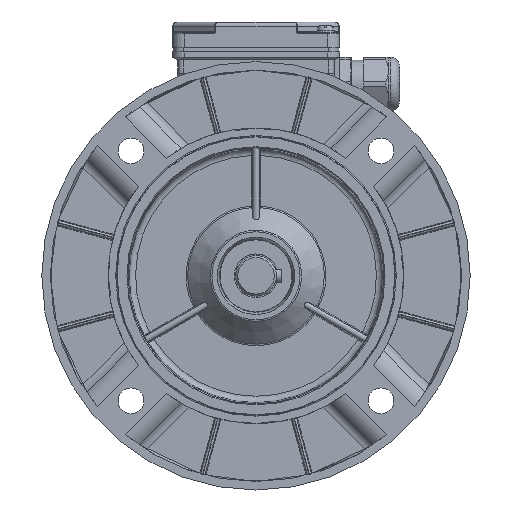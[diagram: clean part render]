
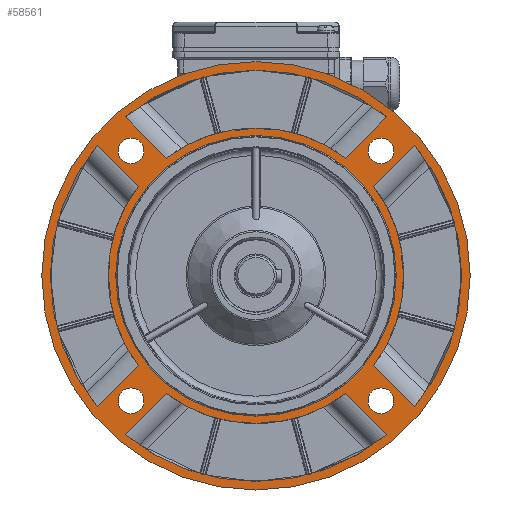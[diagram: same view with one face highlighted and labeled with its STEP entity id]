
A CAD part, left-side view. The second image highlights one B-rep face of the part: STEP entity #58561.
In plain terms, the highlighted planar face has unit normal (-1, 0, 0).
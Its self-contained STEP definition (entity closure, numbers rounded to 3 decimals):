
#2211=LINE('',#86983,#5486);
#2212=LINE('',#86988,#5487);
#2213=LINE('',#86991,#5488);
#2214=LINE('',#86996,#5489);
#2215=LINE('',#87001,#5490);
#2216=LINE('',#87006,#5491);
#2217=LINE('',#87009,#5492);
#2218=LINE('',#87014,#5493);
#5486=VECTOR('',#68254,1000.);
#5487=VECTOR('',#68257,1000.);
#5488=VECTOR('',#68260,1000.);
#5489=VECTOR('',#68263,1000.);
#5490=VECTOR('',#68268,1000.);
#5491=VECTOR('',#68271,1000.);
#5492=VECTOR('',#68274,1000.);
#5493=VECTOR('',#68277,1000.);
#8595=PLANE('',#61592);
#13766=ORIENTED_EDGE('',*,*,#24374,.T.);
#13767=ORIENTED_EDGE('',*,*,#24375,.T.);
#13768=ORIENTED_EDGE('',*,*,#24376,.T.);
#13769=ORIENTED_EDGE('',*,*,#24377,.T.);
#13770=ORIENTED_EDGE('',*,*,#24378,.T.);
#13771=ORIENTED_EDGE('',*,*,#24379,.T.);
#13772=ORIENTED_EDGE('',*,*,#24380,.T.);
#13773=ORIENTED_EDGE('',*,*,#24381,.T.);
#13774=ORIENTED_EDGE('',*,*,#24336,.F.);
#13775=ORIENTED_EDGE('',*,*,#24335,.F.);
#13776=ORIENTED_EDGE('',*,*,#24334,.F.);
#13777=ORIENTED_EDGE('',*,*,#24333,.F.);
#13778=ORIENTED_EDGE('',*,*,#24382,.T.);
#13779=ORIENTED_EDGE('',*,*,#24373,.T.);
#13780=ORIENTED_EDGE('',*,*,#24383,.T.);
#13781=ORIENTED_EDGE('',*,*,#24384,.T.);
#13782=ORIENTED_EDGE('',*,*,#24385,.T.);
#13783=ORIENTED_EDGE('',*,*,#24386,.T.);
#13784=ORIENTED_EDGE('',*,*,#24387,.T.);
#13785=ORIENTED_EDGE('',*,*,#24388,.T.);
#13786=ORIENTED_EDGE('',*,*,#24389,.T.);
#13787=ORIENTED_EDGE('',*,*,#24390,.T.);
#24333=EDGE_CURVE('',#29997,#29997,#33467,.T.);
#24334=EDGE_CURVE('',#29998,#29998,#33468,.T.);
#24335=EDGE_CURVE('',#29999,#29999,#33469,.T.);
#24336=EDGE_CURVE('',#30000,#30000,#33470,.T.);
#24373=EDGE_CURVE('',#30021,#30021,#33480,.T.);
#24374=EDGE_CURVE('',#30022,#30023,#2211,.T.);
#24375=EDGE_CURVE('',#30023,#30024,#33481,.T.);
#24376=EDGE_CURVE('',#30024,#30025,#2212,.T.);
#24377=EDGE_CURVE('',#30025,#30022,#33482,.T.);
#24378=EDGE_CURVE('',#30026,#30027,#2213,.T.);
#24379=EDGE_CURVE('',#30027,#30028,#33483,.T.);
#24380=EDGE_CURVE('',#30028,#30029,#2214,.T.);
#24381=EDGE_CURVE('',#30029,#30026,#33484,.T.);
#24382=EDGE_CURVE('',#30030,#30030,#33485,.F.);
#24383=EDGE_CURVE('',#30031,#30032,#2215,.T.);
#24384=EDGE_CURVE('',#30032,#30033,#33486,.T.);
#24385=EDGE_CURVE('',#30033,#30034,#2216,.T.);
#24386=EDGE_CURVE('',#30034,#30031,#33487,.T.);
#24387=EDGE_CURVE('',#30035,#30036,#2217,.T.);
#24388=EDGE_CURVE('',#30036,#30037,#33488,.T.);
#24389=EDGE_CURVE('',#30037,#30038,#2218,.T.);
#24390=EDGE_CURVE('',#30038,#30035,#33489,.T.);
#29997=VERTEX_POINT('',#86825);
#29998=VERTEX_POINT('',#86828);
#29999=VERTEX_POINT('',#86831);
#30000=VERTEX_POINT('',#86834);
#30021=VERTEX_POINT('',#86981);
#30022=VERTEX_POINT('',#86984);
#30023=VERTEX_POINT('',#86985);
#30024=VERTEX_POINT('',#86987);
#30025=VERTEX_POINT('',#86989);
#30026=VERTEX_POINT('',#86992);
#30027=VERTEX_POINT('',#86993);
#30028=VERTEX_POINT('',#86995);
#30029=VERTEX_POINT('',#86997);
#30030=VERTEX_POINT('',#87000);
#30031=VERTEX_POINT('',#87002);
#30032=VERTEX_POINT('',#87003);
#30033=VERTEX_POINT('',#87005);
#30034=VERTEX_POINT('',#87007);
#30035=VERTEX_POINT('',#87010);
#30036=VERTEX_POINT('',#87011);
#30037=VERTEX_POINT('',#87013);
#30038=VERTEX_POINT('',#87015);
#33467=CIRCLE('',#61556,6.);
#33468=CIRCLE('',#61558,6.);
#33469=CIRCLE('',#61560,6.);
#33470=CIRCLE('',#61562,6.);
#33480=CIRCLE('',#61591,100.);
#33481=CIRCLE('',#61593,69.);
#33482=CIRCLE('',#61594,96.);
#33483=CIRCLE('',#61595,69.);
#33484=CIRCLE('',#61596,96.);
#33485=CIRCLE('',#61597,65.5);
#33486=CIRCLE('',#61598,69.);
#33487=CIRCLE('',#61599,96.);
#33488=CIRCLE('',#61600,69.);
#33489=CIRCLE('',#61601,96.);
#35649=EDGE_LOOP('',(#13766,#13767,#13768,#13769));
#35650=EDGE_LOOP('',(#13770,#13771,#13772,#13773));
#35651=EDGE_LOOP('',(#13774));
#35652=EDGE_LOOP('',(#13775));
#35653=EDGE_LOOP('',(#13776));
#35654=EDGE_LOOP('',(#13777));
#35655=EDGE_LOOP('',(#13778));
#35656=EDGE_LOOP('',(#13779));
#35657=EDGE_LOOP('',(#13780,#13781,#13782,#13783));
#35658=EDGE_LOOP('',(#13784,#13785,#13786,#13787));
#38499=FACE_BOUND('',#35649,.T.);
#38500=FACE_BOUND('',#35650,.T.);
#38501=FACE_BOUND('',#35651,.T.);
#38502=FACE_BOUND('',#35652,.T.);
#38503=FACE_BOUND('',#35653,.T.);
#38504=FACE_BOUND('',#35654,.T.);
#38505=FACE_BOUND('',#35655,.T.);
#38506=FACE_BOUND('',#35656,.T.);
#38507=FACE_BOUND('',#35657,.T.);
#38508=FACE_BOUND('',#35658,.T.);
#58561=ADVANCED_FACE('',(#38499,#38500,#38501,#38502,#38503,#38504,#38505,
#38506,#38507,#38508),#8595,.T.);
#61556=AXIS2_PLACEMENT_3D('',#86824,#68164,#68165);
#61558=AXIS2_PLACEMENT_3D('',#86827,#68168,#68169);
#61560=AXIS2_PLACEMENT_3D('',#86830,#68172,#68173);
#61562=AXIS2_PLACEMENT_3D('',#86833,#68176,#68177);
#61591=AXIS2_PLACEMENT_3D('',#86980,#68250,#68251);
#61592=AXIS2_PLACEMENT_3D('',#86982,#68252,#68253);
#61593=AXIS2_PLACEMENT_3D('',#86986,#68255,#68256);
#61594=AXIS2_PLACEMENT_3D('',#86990,#68258,#68259);
#61595=AXIS2_PLACEMENT_3D('',#86994,#68261,#68262);
#61596=AXIS2_PLACEMENT_3D('',#86998,#68264,#68265);
#61597=AXIS2_PLACEMENT_3D('',#86999,#68266,#68267);
#61598=AXIS2_PLACEMENT_3D('',#87004,#68269,#68270);
#61599=AXIS2_PLACEMENT_3D('',#87008,#68272,#68273);
#61600=AXIS2_PLACEMENT_3D('',#87012,#68275,#68276);
#61601=AXIS2_PLACEMENT_3D('',#87016,#68278,#68279);
#68164=DIRECTION('',(-1.,0.,0.));
#68165=DIRECTION('',(0.,-1.,0.));
#68168=DIRECTION('',(-1.,0.,0.));
#68169=DIRECTION('',(0.,-1.,0.));
#68172=DIRECTION('',(-1.,0.,0.));
#68173=DIRECTION('',(0.,-1.,0.));
#68176=DIRECTION('',(-1.,0.,0.));
#68177=DIRECTION('',(0.,-1.,0.));
#68250=DIRECTION('',(-1.,0.,0.));
#68251=DIRECTION('',(0.,0.,-1.));
#68252=DIRECTION('',(-1.,0.,0.));
#68253=DIRECTION('',(0.,0.,-1.));
#68254=DIRECTION('',(0.,-0.707,-0.707));
#68255=DIRECTION('',(-1.,0.,0.));
#68256=DIRECTION('',(0.,-1.,0.));
#68257=DIRECTION('',(0.,0.707,-0.707));
#68258=DIRECTION('',(1.,0.,0.));
#68259=DIRECTION('',(0.,-1.,0.));
#68260=DIRECTION('',(0.,0.707,0.707));
#68261=DIRECTION('',(-1.,0.,0.));
#68262=DIRECTION('',(0.,1.,0.));
#68263=DIRECTION('',(0.,-0.707,0.707));
#68264=DIRECTION('',(1.,0.,0.));
#68265=DIRECTION('',(0.,1.,0.));
#68266=DIRECTION('',(-1.,0.,0.));
#68267=DIRECTION('',(0.,0.,-1.));
#68268=DIRECTION('',(0.,-0.707,0.707));
#68269=DIRECTION('',(-1.,0.,0.));
#68270=DIRECTION('',(0.,0.,1.));
#68271=DIRECTION('',(0.,-0.707,-0.707));
#68272=DIRECTION('',(1.,0.,0.));
#68273=DIRECTION('',(0.,0.,1.));
#68274=DIRECTION('',(0.,0.707,-0.707));
#68275=DIRECTION('',(-1.,0.,0.));
#68276=DIRECTION('',(0.,0.,-1.));
#68277=DIRECTION('',(0.,0.707,0.707));
#68278=DIRECTION('',(1.,0.,0.));
#68279=DIRECTION('',(0.,0.,-1.));
#86824=CARTESIAN_POINT('',(-44.8,58.336,58.336));
#86825=CARTESIAN_POINT('',(-44.8,52.336,58.336));
#86827=CARTESIAN_POINT('',(-44.8,-58.336,58.336));
#86828=CARTESIAN_POINT('',(-44.8,-64.336,58.336));
#86830=CARTESIAN_POINT('',(-44.8,-58.336,-58.336));
#86831=CARTESIAN_POINT('',(-44.8,-64.336,-58.336));
#86833=CARTESIAN_POINT('',(-44.8,58.336,-58.336));
#86834=CARTESIAN_POINT('',(-44.8,52.336,-58.336));
#86980=CARTESIAN_POINT('',(-44.8,0.,0.));
#86981=CARTESIAN_POINT('',(-44.8,0.,-100.));
#86982=CARTESIAN_POINT('',(-44.8,0.,-65.));
#86983=CARTESIAN_POINT('',(-44.8,53.605,40.403));
#86984=CARTESIAN_POINT('',(-44.8,74.161,60.96));
#86985=CARTESIAN_POINT('',(-44.8,54.943,41.741));
#86986=CARTESIAN_POINT('',(-44.8,0.,0.));
#86987=CARTESIAN_POINT('',(-44.8,54.943,-41.741));
#86988=CARTESIAN_POINT('',(-44.8,73.211,-60.009));
#86989=CARTESIAN_POINT('',(-44.8,74.161,-60.96));
#86990=CARTESIAN_POINT('',(-44.8,0.,0.));
#86991=CARTESIAN_POINT('',(-44.8,-53.605,-40.403));
#86992=CARTESIAN_POINT('',(-44.8,-74.161,-60.96));
#86993=CARTESIAN_POINT('',(-44.8,-54.943,-41.741));
#86994=CARTESIAN_POINT('',(-44.8,0.,0.));
#86995=CARTESIAN_POINT('',(-44.8,-54.943,41.741));
#86996=CARTESIAN_POINT('',(-44.8,-73.211,60.009));
#86997=CARTESIAN_POINT('',(-44.8,-74.161,60.96));
#86998=CARTESIAN_POINT('',(-44.8,0.,0.));
#86999=CARTESIAN_POINT('',(-44.8,0.,0.));
#87000=CARTESIAN_POINT('',(-44.8,0.,-65.5));
#87001=CARTESIAN_POINT('',(-44.8,40.403,-53.605));
#87002=CARTESIAN_POINT('',(-44.8,60.96,-74.161));
#87003=CARTESIAN_POINT('',(-44.8,41.741,-54.943));
#87004=CARTESIAN_POINT('',(-44.8,0.,0.));
#87005=CARTESIAN_POINT('',(-44.8,-41.741,-54.943));
#87006=CARTESIAN_POINT('',(-44.8,-60.009,-73.211));
#87007=CARTESIAN_POINT('',(-44.8,-60.96,-74.161));
#87008=CARTESIAN_POINT('',(-44.8,0.,0.));
#87009=CARTESIAN_POINT('',(-44.8,-40.403,53.605));
#87010=CARTESIAN_POINT('',(-44.8,-60.96,74.161));
#87011=CARTESIAN_POINT('',(-44.8,-41.741,54.943));
#87012=CARTESIAN_POINT('',(-44.8,0.,0.));
#87013=CARTESIAN_POINT('',(-44.8,41.741,54.943));
#87014=CARTESIAN_POINT('',(-44.8,60.009,73.211));
#87015=CARTESIAN_POINT('',(-44.8,60.96,74.161));
#87016=CARTESIAN_POINT('',(-44.8,0.,0.));
